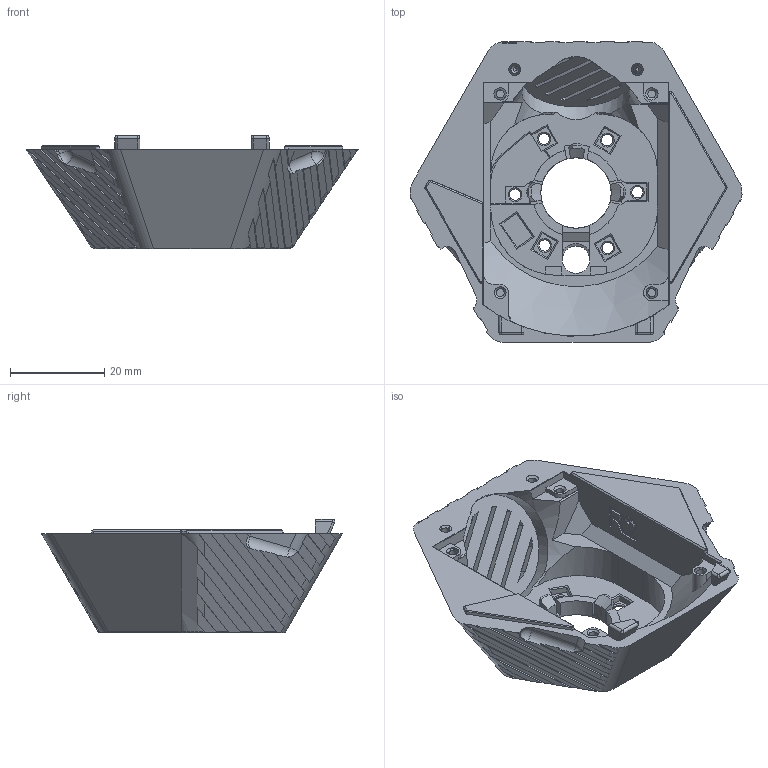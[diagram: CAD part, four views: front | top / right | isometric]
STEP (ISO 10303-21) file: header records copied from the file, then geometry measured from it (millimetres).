
FILE_DESCRIPTION(/* description */ (''),/* implementation_level */ '2;1');
FILE_NAME(/* name */ 'BUDDY CAMERA BOTTOM R2.step',/* time_stamp */ '2025-07-21T14:53:10+02:00',/* author */ (''),/* organization */ (''),/* preprocessor_version */ 'ST-DEVELOPER v20.1',/* originating_system */ 'Autodesk Translation Framework v14.10.0.0',/* authorisation */ '');
FILE_SCHEMA (('AUTOMOTIVE_DESIGN { 1 0 10303 214 3 1 1 }'));
Length unit declared in the file: millimetre
Products named in the file (2): BUDDY CAMERA BOTTOM R2; Corner_Cam_Top
Assembly tree (1 placements, depth 2):
  BUDDY CAMERA BOTTOM R2
    Corner_Cam_Top
Bounding box: 70.33 x 63.75 x 24 mm (x, y, z)
Volume: 17241.9 mm3; surface area: 12104 mm2
Topology: 1 solids, 1 shells, 540 faces, 1534 edges, 999 vertices
Faces by surface type: plane 353, cylinder 83, bspline 60, cone 37, sphere 7
Full cylindrical faces by diameter (mm): 1.7 x6, 2.4 x4, 5.8 x1, 14.9 x1, 23 x1
Entity records: 19690 total; most frequent: CARTESIAN_POINT 6074, ORIENTED_EDGE 3062, DIRECTION 2516, EDGE_CURVE 1531, VERTEX_POINT 999, LINE 956, VECTOR 956, AXIS2_PLACEMENT_3D 780
